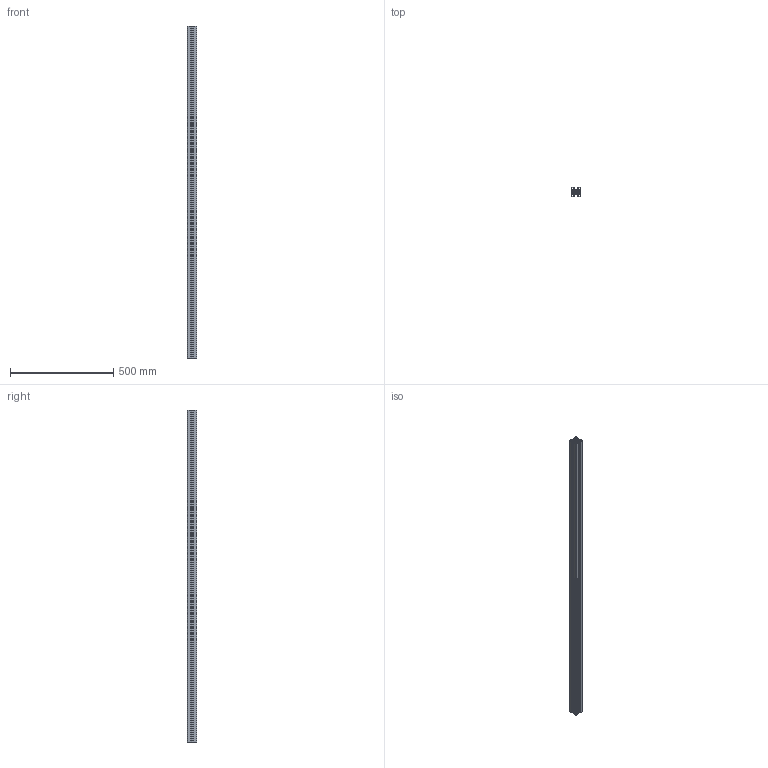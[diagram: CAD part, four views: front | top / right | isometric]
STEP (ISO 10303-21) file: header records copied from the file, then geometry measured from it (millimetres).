
FILE_DESCRIPTION(/* description */ (''),/* implementation_level */ '2;1');
FILE_NAME(/* name */ 'WHEELS-INSERT.30.stp',/* time_stamp */ '2018-05-25T14:32:21+02:00',/* author */ (''),/* organization */ (''),/* preprocessor_version */ 'ST-DEVELOPER v16.7',/* originating_system */ 'SIEMENS PLM Software NX 12.0',/* authorisation */ '');
FILE_SCHEMA (('AP203_CONFIGURATION_CONTROLLED_3D_DESIGN_OF_MECHANICAL_PARTS_AND_ASSEMBLIES_MIM_LF { 1 0 10303 403 2 1 2}'));
Length unit declared in the file: millimetre
Products named in the file (1): turc66A81BAD9zil
Bounding box: 45 x 45 x 1610 mm (x, y, z)
Volume: 1223443.8 mm3; surface area: 1002619 mm2
Topology: 1 solids, 1 shells, 178 faces, 528 edges, 352 vertices
Faces by surface type: plane 106, cylinder 64, cone 8
Entity records: 6090 total; most frequent: CARTESIAN_POINT 1059, ORIENTED_EDGE 1056, DIRECTION 1022, EDGE_CURVE 528, LINE 392, VECTOR 392, VERTEX_POINT 352, AXIS2_PLACEMENT_3D 315
